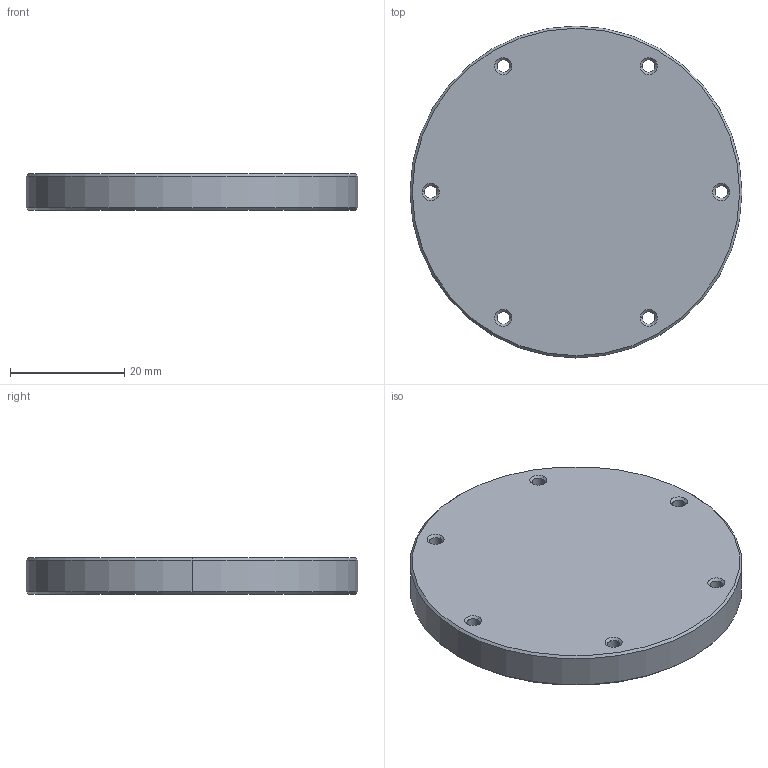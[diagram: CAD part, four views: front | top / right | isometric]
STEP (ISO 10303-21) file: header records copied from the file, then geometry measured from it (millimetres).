
FILE_DESCRIPTION (( 'STEP AP214' ), '1' );
FILE_NAME ('WTE2-P-END-CAP-R2.STEP', '2019-11-12T19:09:10', ( '' ), ( '' ), 'SwSTEP 2.0', 'SolidWorks 2020', '' );
FILE_SCHEMA (( 'AUTOMOTIVE_DESIGN' ));
Length unit declared in the file: millimetre
Products named in the file (1): WTE2-P-END-CAP-R2
Bounding box: 58 x 58 x 6.35 mm (x, y, z)
Volume: 16595.9 mm3; surface area: 6556.2 mm2
Topology: 1 solids, 1 shells, 44 faces, 98 edges, 56 vertices
Faces by surface type: cone 28, cylinder 14, plane 2
Entity records: 1272 total; most frequent: DIRECTION 244, CARTESIAN_POINT 199, ORIENTED_EDGE 196, AXIS2_PLACEMENT_3D 101, EDGE_CURVE 98, VERTEX_POINT 56, EDGE_LOOP 56, CIRCLE 56
